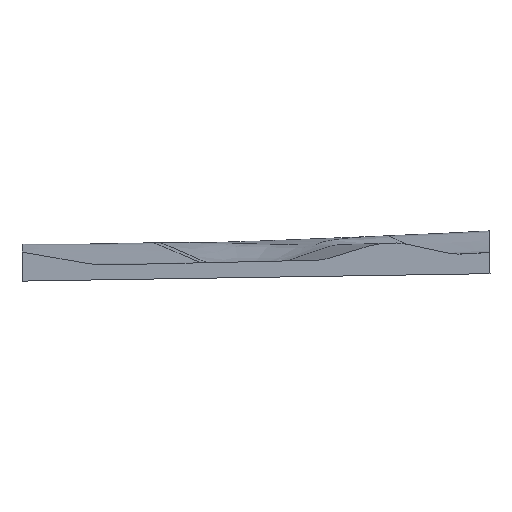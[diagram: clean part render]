
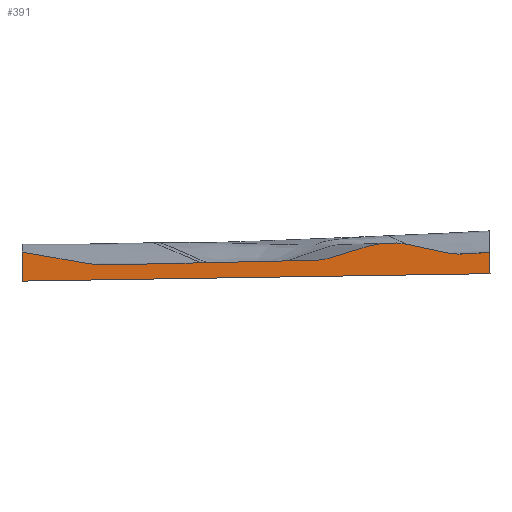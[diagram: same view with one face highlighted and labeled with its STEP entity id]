
A CAD part, left-side view. The second image highlights one B-rep face of the part: STEP entity #391.
In plain terms, the highlighted planar face has unit normal (-1, 0, -0.019).
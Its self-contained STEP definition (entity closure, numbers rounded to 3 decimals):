
#15=LINE('',#10573,#23);
#16=LINE('',#10575,#24);
#17=LINE('',#10576,#25);
#23=VECTOR('',#425,1.);
#24=VECTOR('',#426,1.);
#25=VECTOR('',#427,1.);
#31=PLANE('',#412);
#36=ELLIPSE('',#411,5377.861,1723.853);
#55=FACE_OUTER_BOUND('',#77,.T.);
#77=EDGE_LOOP('',(#329,#330,#331,#332,#333,#334,#335));
#91=B_SPLINE_CURVE_WITH_KNOTS('',3,(#1983,#1984,#1985,#1986,#1987,#1988,
#1989,#1990,#1991,#1992,#1993,#1994,#1995,#1996,#1997,#1998,#1999,#2000,
#2001,#2002,#2003,#2004,#2005,#2006,#2007,#2008,#2009,#2010,#2011,#2012,
#2013,#2014,#2015,#2016,#2017,#2018,#2019,#2020,#2021,#2022),
 .UNSPECIFIED.,.F.,.F.,(4,2,2,2,2,2,2,2,2,2,2,2,2,2,2,2,2,2,2,4),(-0.102,
-0.094,-0.09,-0.085,-0.077,
-0.062,-0.055,-0.05,-0.049,
-0.048,-0.037,-0.033,-0.028,
-0.027,-0.026,-0.025,-0.024,
-0.024,-0.022,0.),
 .UNSPECIFIED.);
#112=B_SPLINE_CURVE_WITH_KNOTS('',3,(#6012,#6013,#6014,#6015,#6016,#6017,
#6018),.UNSPECIFIED.,.F.,.F.,(4,3,4),(0.,0.5,1.),.UNSPECIFIED.);
#128=B_SPLINE_CURVE_WITH_KNOTS('',3,(#8436,#8437,#8438,#8439,#8440,#8441,
#8442,#8443,#8444,#8445,#8446,#8447,#8448,#8449,#8450,#8451,#8452,#8453,
#8454,#8455,#8456,#8457,#8458,#8459,#8460,#8461,#8462,#8463,#8464,#8465),
 .UNSPECIFIED.,.F.,.F.,(4,2,2,2,2,2,2,2,2,2,2,2,2,2,4),(-6.301,
-5.542,-5.325,-5.181,-4.656,
-4.395,-3.871,-3.668,-3.659,
-3.476,-3.064,-2.498,-2.036,
-1.11,0.),.UNSPECIFIED.);
#138=VERTEX_POINT('',#1746);
#141=VERTEX_POINT('',#1879);
#156=VERTEX_POINT('',#6011);
#166=VERTEX_POINT('',#8428);
#169=VERTEX_POINT('',#10561);
#170=VERTEX_POINT('',#10572);
#171=VERTEX_POINT('',#10574);
#183=EDGE_CURVE('',#138,#141,#91,.T.);
#204=EDGE_CURVE('',#138,#156,#112,.T.);
#221=EDGE_CURVE('',#166,#156,#128,.T.);
#225=EDGE_CURVE('',#166,#169,#36,.T.);
#227=EDGE_CURVE('',#141,#170,#15,.T.);
#228=EDGE_CURVE('',#171,#170,#16,.T.);
#229=EDGE_CURVE('',#169,#171,#17,.T.);
#329=ORIENTED_EDGE('',*,*,#204,.F.);
#330=ORIENTED_EDGE('',*,*,#183,.T.);
#331=ORIENTED_EDGE('',*,*,#227,.T.);
#332=ORIENTED_EDGE('',*,*,#228,.F.);
#333=ORIENTED_EDGE('',*,*,#229,.F.);
#334=ORIENTED_EDGE('',*,*,#225,.F.);
#335=ORIENTED_EDGE('',*,*,#221,.T.);
#391=ADVANCED_FACE('',(#55),#31,.T.);
#411=AXIS2_PLACEMENT_3D('',#10562,#421,#422);
#412=AXIS2_PLACEMENT_3D('',#10571,#423,#424);
#421=DIRECTION('center_axis',(-1.,0.,
-0.019));
#422=DIRECTION('ref_axis',(-0.002,0.994,0.105));
#423=DIRECTION('center_axis',(-1.,0.,
-0.019));
#424=DIRECTION('ref_axis',(-0.019,0.,1.));
#425=DIRECTION('',(0.019,-0.016,-1.));
#426=DIRECTION('',(0.,1.,-0.016));
#427=DIRECTION('',(0.019,-0.016,-1.));
#1746=CARTESIAN_POINT('',(419.825,-57.541,3.935));
#1879=CARTESIAN_POINT('',(419.663,-7.108,11.812));
#1983=CARTESIAN_POINT('Ctrl Pts',(419.825,-57.54,3.935));
#1984=CARTESIAN_POINT('Ctrl Pts',(419.824,-52.988,3.887));
#1985=CARTESIAN_POINT('Ctrl Pts',(419.813,-49.253,4.431));
#1986=CARTESIAN_POINT('Ctrl Pts',(419.8,-45.48,5.08));
#1987=CARTESIAN_POINT('Ctrl Pts',(419.796,-44.317,5.281));
#1988=CARTESIAN_POINT('Ctrl Pts',(419.786,-41.59,5.754));
#1989=CARTESIAN_POINT('Ctrl Pts',(419.78,-39.802,6.064));
#1990=CARTESIAN_POINT('Ctrl Pts',(419.768,-36.401,6.656));
#1991=CARTESIAN_POINT('Ctrl Pts',(419.76,-34.332,7.015));
#1992=CARTESIAN_POINT('Ctrl Pts',(419.738,-28.067,8.11));
#1993=CARTESIAN_POINT('Ctrl Pts',(419.723,-23.916,8.841));
#1994=CARTESIAN_POINT('Ctrl Pts',(419.701,-17.785,9.923));
#1995=CARTESIAN_POINT('Ctrl Pts',(419.693,-15.362,10.351));
#1996=CARTESIAN_POINT('Ctrl Pts',(419.682,-12.349,10.884));
#1997=CARTESIAN_POINT('Ctrl Pts',(419.678,-11.377,11.056));
#1998=CARTESIAN_POINT('Ctrl Pts',(419.675,-10.279,11.25));
#1999=CARTESIAN_POINT('Ctrl Pts',(419.674,-10.027,11.295));
#2000=CARTESIAN_POINT('Ctrl Pts',(419.672,-9.661,11.359));
#2001=CARTESIAN_POINT('Ctrl Pts',(419.672,-9.508,11.387));
#2002=CARTESIAN_POINT('Ctrl Pts',(419.67,-9.158,11.449));
#2003=CARTESIAN_POINT('Ctrl Pts',(419.669,-8.828,11.507));
#2004=CARTESIAN_POINT('Ctrl Pts',(419.668,-8.374,11.587));
#2005=CARTESIAN_POINT('Ctrl Pts',(419.667,-8.25,11.609));
#2006=CARTESIAN_POINT('Ctrl Pts',(419.666,-7.964,11.66));
#2007=CARTESIAN_POINT('Ctrl Pts',(419.666,-7.802,11.689));
#2008=CARTESIAN_POINT('Ctrl Pts',(419.665,-7.623,11.721));
#2009=CARTESIAN_POINT('Ctrl Pts',(419.665,-7.607,11.723));
#2010=CARTESIAN_POINT('Ctrl Pts',(419.665,-7.545,11.734));
#2011=CARTESIAN_POINT('Ctrl Pts',(419.665,-7.54,11.735));
#2012=CARTESIAN_POINT('Ctrl Pts',(419.665,-7.5,11.742));
#2013=CARTESIAN_POINT('Ctrl Pts',(419.664,-7.485,11.745));
#2014=CARTESIAN_POINT('Ctrl Pts',(419.664,-7.456,11.75));
#2015=CARTESIAN_POINT('Ctrl Pts',(419.664,-7.443,11.753));
#2016=CARTESIAN_POINT('Ctrl Pts',(419.664,-7.42,11.757));
#2017=CARTESIAN_POINT('Ctrl Pts',(419.664,-7.411,11.758));
#2018=CARTESIAN_POINT('Ctrl Pts',(419.664,-7.378,11.764));
#2019=CARTESIAN_POINT('Ctrl Pts',(419.664,-7.334,11.772));
#2020=CARTESIAN_POINT('Ctrl Pts',(419.664,-7.258,11.785));
#2021=CARTESIAN_POINT('Ctrl Pts',(419.663,-7.181,11.799));
#2022=CARTESIAN_POINT('Ctrl Pts',(419.663,-7.108,11.812));
#6011=CARTESIAN_POINT('',(419.809,-187.031,6.834));
#6012=CARTESIAN_POINT('Ctrl Pts',(419.825,-57.541,3.932));
#6013=CARTESIAN_POINT('Ctrl Pts',(419.827,-79.128,4.153));
#6014=CARTESIAN_POINT('Ctrl Pts',(419.827,-100.713,4.506));
#6015=CARTESIAN_POINT('Ctrl Pts',(419.824,-122.295,4.988));
#6016=CARTESIAN_POINT('Ctrl Pts',(419.821,-143.877,5.471));
#6017=CARTESIAN_POINT('Ctrl Pts',(419.816,-165.456,6.085));
#6018=CARTESIAN_POINT('Ctrl Pts',(419.809,-187.031,6.83));
#8428=CARTESIAN_POINT('',(419.765,-274.067,10.57));
#8436=CARTESIAN_POINT('Ctrl Pts',(419.765,-274.067,10.57));
#8437=CARTESIAN_POINT('Ctrl Pts',(419.767,-270.796,10.404));
#8438=CARTESIAN_POINT('Ctrl Pts',(419.758,-268.379,10.864));
#8439=CARTESIAN_POINT('Ctrl Pts',(419.748,-265.985,11.371));
#8440=CARTESIAN_POINT('Ctrl Pts',(419.746,-265.573,11.463));
#8441=CARTESIAN_POINT('Ctrl Pts',(419.735,-263.098,11.989));
#8442=CARTESIAN_POINT('Ctrl Pts',(419.733,-262.571,12.1));
#8443=CARTESIAN_POINT('Ctrl Pts',(419.699,-254.586,13.794));
#8444=CARTESIAN_POINT('Ctrl Pts',(419.681,-250.409,14.693));
#8445=CARTESIAN_POINT('Ctrl Pts',(419.665,-246.695,15.49));
#8446=CARTESIAN_POINT('Ctrl Pts',(419.66,-245.465,15.761));
#8447=CARTESIAN_POINT('Ctrl Pts',(419.644,-241.762,16.575));
#8448=CARTESIAN_POINT('Ctrl Pts',(419.633,-239.209,17.101));
#8449=CARTESIAN_POINT('Ctrl Pts',(419.626,-234.468,17.406));
#8450=CARTESIAN_POINT('Ctrl Pts',(419.625,-232.799,17.457));
#8451=CARTESIAN_POINT('Ctrl Pts',(419.626,-230.172,17.345));
#8452=CARTESIAN_POINT('Ctrl Pts',(419.626,-230.056,17.34));
#8453=CARTESIAN_POINT('Ctrl Pts',(419.627,-227.664,17.227));
#8454=CARTESIAN_POINT('Ctrl Pts',(419.63,-225.98,17.041));
#8455=CARTESIAN_POINT('Ctrl Pts',(419.643,-221.101,16.283));
#8456=CARTESIAN_POINT('Ctrl Pts',(419.656,-218.738,15.554));
#8457=CARTESIAN_POINT('Ctrl Pts',(419.682,-213.971,14.09));
#8458=CARTESIAN_POINT('Ctrl Pts',(419.699,-210.707,13.096));
#8459=CARTESIAN_POINT('Ctrl Pts',(419.712,-208.322,12.369));
#8460=CARTESIAN_POINT('Ctrl Pts',(419.723,-206.395,11.781));
#8461=CARTESIAN_POINT('Ctrl Pts',(419.763,-198.875,9.492));
#8462=CARTESIAN_POINT('Ctrl Pts',(419.769,-197.742,9.155));
#8463=CARTESIAN_POINT('Ctrl Pts',(419.794,-193.099,7.737));
#8464=CARTESIAN_POINT('Ctrl Pts',(419.808,-190.729,6.96));
#8465=CARTESIAN_POINT('Ctrl Pts',(419.809,-187.031,6.834));
#10561=CARTESIAN_POINT('',(419.753,-292.149,11.523));
#10562=CARTESIAN_POINT('Origin',(386.022,1935.049,1797.236));
#10571=CARTESIAN_POINT('Origin',(414.972,-288.072,268.417));
#10572=CARTESIAN_POINT('',(419.993,-7.389,-5.897));
#10573=CARTESIAN_POINT('',(414.972,-3.108,263.895));
#10574=CARTESIAN_POINT('',(419.993,-292.354,-1.375));
#10575=CARTESIAN_POINT('',(419.993,-292.354,-1.375));
#10576=CARTESIAN_POINT('',(414.972,-288.072,268.417));
